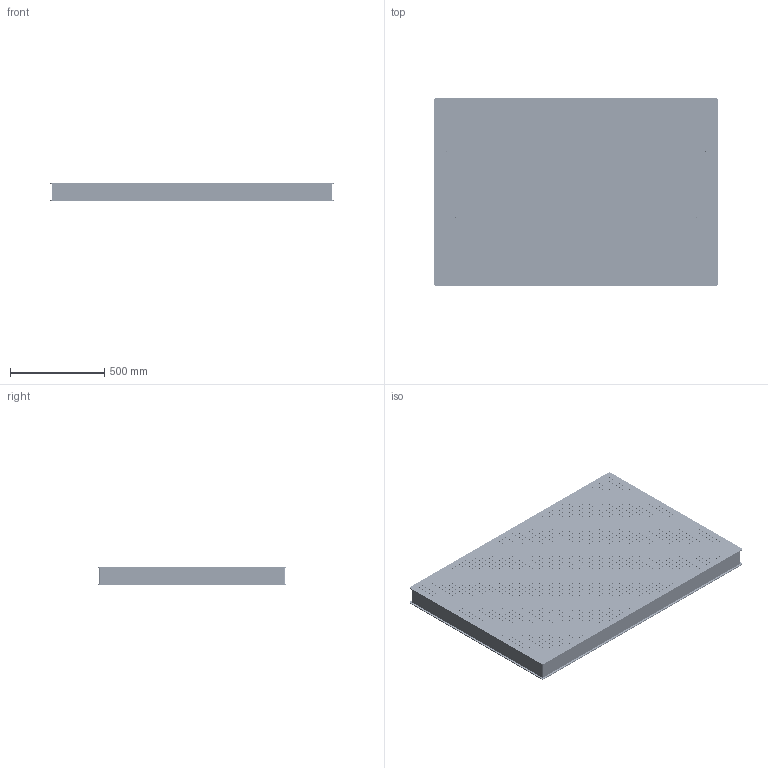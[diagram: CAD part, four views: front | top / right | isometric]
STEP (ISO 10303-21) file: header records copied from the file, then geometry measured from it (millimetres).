
FILE_DESCRIPTION (( 'STEP AP203' ), '1' );
FILE_NAME ('OTBB1015-100 怢醱.STEP', '2019-05-09T08:59:15', ( 'User' ), ( 'User' ), 'SwSTEP 2.0', 'SolidWorks 2016', '' );
FILE_SCHEMA (( 'CONFIG_CONTROL_DESIGN' ));
Products named in the file (1): OTBB1015-100 怢醱
Bounding box: 1500 x 1000 x 100 mm (x, y, z)
Surface area: 6629110.4 mm2 (no closed solid volume)
Topology: 0 solids, 30 shells, 3970 faces, 13134 edges, 9196 vertices
Faces by surface type: cylinder 3916, plane 54
Entity records: 158504 total; most frequent: DIRECTION 29916, CARTESIAN_POINT 26301, ORIENTED_EDGE 24912, EDGE_CURVE 13134, AXIS2_PLACEMENT_3D 12811, VERTEX_POINT 9196, CIRCLE 8840, EDGE_LOOP 8378
